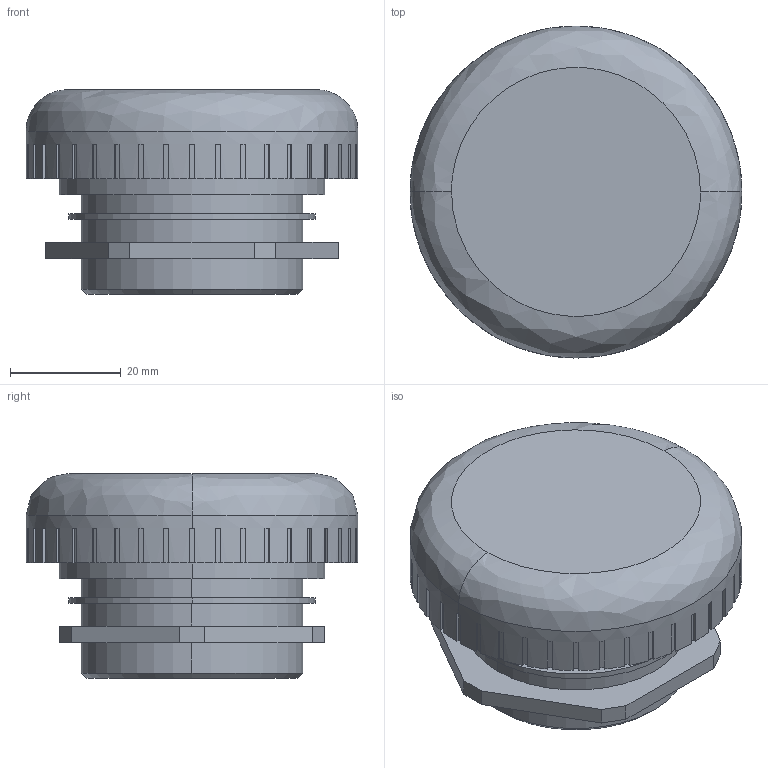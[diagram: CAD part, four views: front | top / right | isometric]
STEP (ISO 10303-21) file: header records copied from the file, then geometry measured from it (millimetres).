
FILE_DESCRIPTION (( 'STEP AP203' ), '1' );
FILE_NAME ('EDA40_V2.STEP', '2018-05-07T08:11:41', ( '' ), ( '' ), 'SwSTEP 2.0', 'SolidWorks 2017', '' );
FILE_SCHEMA (( 'CONFIG_CONTROL_DESIGN' ));
Length unit declared in the file: millimetre
Products named in the file (2): EDA40_V2
Bounding box: 60 x 60 x 37 mm (x, y, z)
Volume: 61594.9 mm3; surface area: 14763.3 mm2
Topology: 1 solids, 1 shells, 262 faces, 730 edges, 486 vertices
Faces by surface type: plane 244, cylinder 14, bspline 2, cone 2
Entity records: 8715 total; most frequent: CARTESIAN_POINT 1720, ORIENTED_EDGE 1460, DIRECTION 1366, EDGE_CURVE 730, LINE 614, VECTOR 614, VERTEX_POINT 486, AXIS2_PLACEMENT_3D 376
